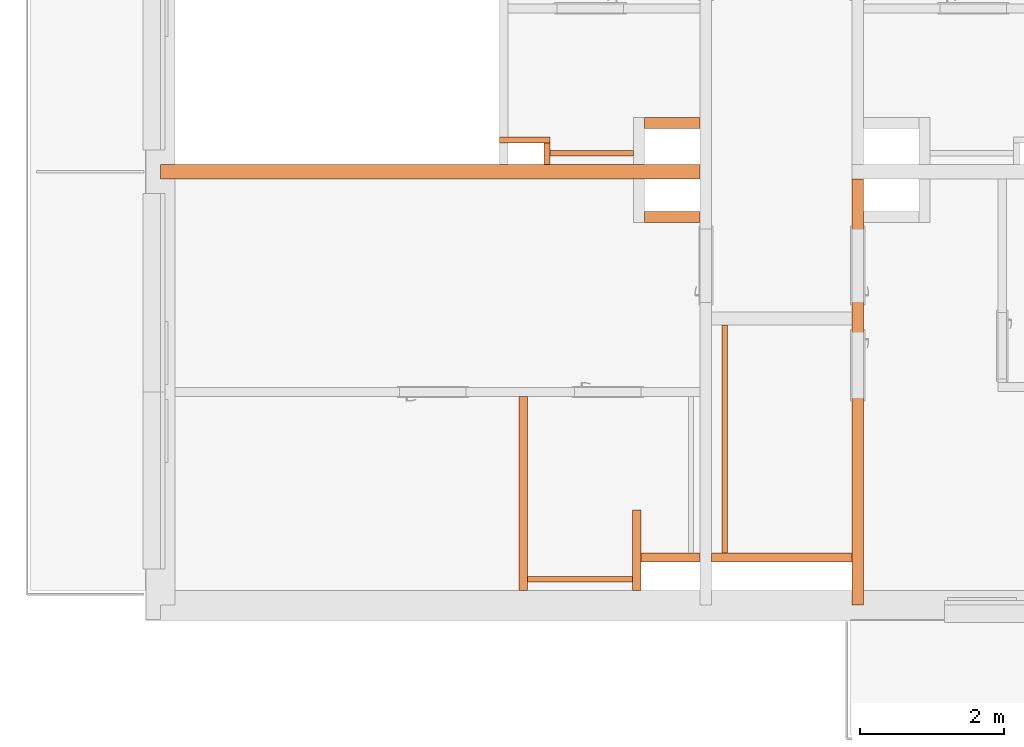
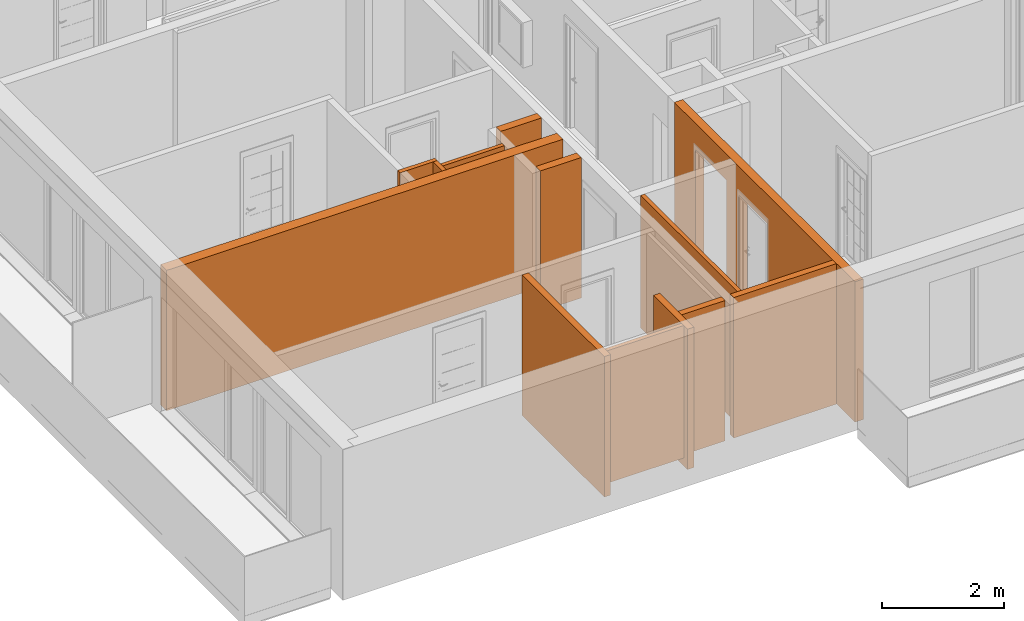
# One storey, part 61 of 64: 13 proxies, 2 openings.
"""IFC2X3 building model written with IfcOpenShell, lengths in millimetres."""

from ifc_helpers import new_model, entity, si_unit, converted_unit, derived_unit, money_unit, direction, frame, origin_with_axes, origin_2d_with_axis, place, context, subcontext, project, spatial, rectangle, extrude, faceted_brep, material, material_list, type_object, element, save


model = new_model("IFC2X3")

# Units and contexts
model_context = context("Model", 3, precision=0.01, world=origin_with_axes(), true_north=direction((0.34421633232, 0.938890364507)))
body_context = subcontext(model_context, "Body", "Model", "MODEL_VIEW")
ifc_project = project(units=[si_unit("LENGTHUNIT", "METRE", prefix="MILLI"), si_unit("AREAUNIT", "SQUARE_METRE"), si_unit("VOLUMEUNIT", "CUBIC_METRE"), converted_unit("PLANEANGLEUNIT", "DEGREE", entity("IfcPlaneAngleMeasure", 0.0174532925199), si_unit("PLANEANGLEUNIT", "RADIAN"), dimensions=[0, 0, 0, 0, 0, 0, 0]), si_unit("SOLIDANGLEUNIT", "STERADIAN"), money_unit("USD"), converted_unit("TIMEUNIT", "Year", entity("IfcTimeMeasure", 31556926.0), si_unit("TIMEUNIT", "SECOND"), dimensions=[0, 0, 1, 0, 0, 0, 0]), si_unit("MASSUNIT", "GRAM", prefix="KILO"), si_unit("THERMODYNAMICTEMPERATUREUNIT", "DEGREE_CELSIUS"), si_unit("LUMINOUSINTENSITYUNIT", "LUMEN"), si_unit("ENERGYUNIT", "JOULE", prefix="MEGA"), derived_unit("THERMALCONDUCTANCEUNIT", [(si_unit("POWERUNIT", "WATT"), 1), (si_unit("LENGTHUNIT", "METRE"), -1), (si_unit("THERMODYNAMICTEMPERATUREUNIT", "KELVIN"), -1)]), derived_unit("SPECIFICHEATCAPACITYUNIT", [(si_unit("ENERGYUNIT", "JOULE"), 1), (si_unit("MASSUNIT", "GRAM", prefix="KILO"), -1), (si_unit("THERMODYNAMICTEMPERATUREUNIT", "KELVIN"), -1)]), derived_unit("MASSDENSITYUNIT", [(si_unit("MASSUNIT", "GRAM", prefix="KILO"), 1), (si_unit("VOLUMEUNIT", "CUBIC_METRE"), -1)])], contexts=[model_context])

# Site, building, storey
site_placement = place(None, origin_with_axes())
site = spatial("IfcSite", under=ifc_project, at=site_placement, Name="USTRONIE MORSKIE", CompositionType="ELEMENT")
building_placement = place(site_placement, origin_with_axes())
building = spatial("IfcBuilding", under=site, at=building_placement, Name="Budynek", CompositionType="ELEMENT")
storey_placement = place(building_placement, frame((0.0, 0.0, 7000.0), z_axis=(0.0, 0.0, 1.0), x_axis=(1.0, 0.0, 0.0)))
storey = spatial("IfcBuildingStorey", under=building, at=storey_placement, Name="PIĘTRO 2", CompositionType="ELEMENT", Elevation=7000.0)

# Proxies
ifc_material_1 = material(Name="Bloczki silikatowe")
building_element_proxy_type_1 = type_object("IfcBuildingElementProxyType", Name="Bloczki silikatowe 120", PredefinedType="NOTDEFINED")
proxy_1_placement = place(storey_placement, frame((415117.920919, 710416.199036, -160.0), z_axis=(0.0, 0.0, 1.0), x_axis=(0.0, -1.0, 0.0)))
element("IfcBuildingElementProxy", 1, at=proxy_1_placement, inside=storey, type_object=building_element_proxy_type_1, material=ifc_material_1, Name="SW-04", context=body_context, shape_type="Brep", body=[
    faceted_brep([(1115.0, -120.0, 2800.0), (1115.0, 0.0, 2800.0), (0.0, 0.0, 2800.0), (0.0, -120.0, 2800.0), (1115.0, -120.0, 0.0), (1115.0, 0.0, 0.0), (0.0, 0.0, 0.0), (0.0, -120.0, 0.0)], [[[0, 1, 2, 3]], [[1, 0, 4, 5]], [[1, 5, 6, 2]], [[7, 3, 2, 6]], [[4, 0, 3, 7]], [[5, 4, 7, 6]]]),
])
proxy_2_placement = place(storey_placement, frame((416017.920919, 709701.199036, -160.0), z_axis=(0.0, 0.0, 1.0), x_axis=(-1.0, 0.0, 0.0)))
element("IfcBuildingElementProxy", 2, at=proxy_2_placement, inside=storey, type_object=building_element_proxy_type_1, material=ifc_material_1, Name="SW-04", context=body_context, shape_type="Brep", body=[
    faceted_brep([(900.0, 0.0, 2800.0), (80.0, 0.0, 2800.0), (80.0, -120.0, 2800.0), (900.0, -120.0, 2800.0), (900.0, 0.0, 0.0), (80.0, 0.0, 0.0), (80.0, -120.0, 0.0), (900.0, -120.0, 0.0)], [[[0, 1, 2, 3]], [[4, 5, 1, 0]], [[5, 6, 2, 1]], [[3, 2, 6, 7]], [[7, 4, 0, 3]], [[7, 6, 5, 4]]]),
])
proxy_3_placement = place(storey_placement, frame((413487.920919, 709201.199036, -160.0), z_axis=(0.0, 0.0, 1.0), x_axis=(0.0, 1.0, 0.0)))
element("IfcBuildingElementProxy", 3, at=proxy_3_placement, inside=storey, type_object=building_element_proxy_type_1, material=ifc_material_1, Name="SW-04", context=body_context, shape_type="Brep", body=[
    faceted_brep([(2790.01936646, 60.0, 0.0), (2790.01936646, -60.0, 0.0), (100.0, -60.0, 0.0), (100.0, 60.0, 0.0), (2790.01936646, 60.0, 2800.0), (2790.01936646, -60.0, 2800.0), (100.0, -60.0, 2800.0), (100.0, 60.0, 2800.0)], [[[0, 1, 2, 3]], [[1, 0, 4, 5]], [[1, 5, 6, 2]], [[7, 3, 2, 6]], [[4, 0, 3, 7]], [[5, 4, 7, 6]]]),
])
proxy_4_placement = place(storey_placement, frame((416017.920919, 709701.199036, -160.0), z_axis=(0.0, 0.0, 1.0), x_axis=(1.0, 0.0, 0.0)))
element("IfcBuildingElementProxy", 4, at=proxy_4_placement, inside=storey, type_object=building_element_proxy_type_1, material=ifc_material_1, Name="SW-04", context=body_context, shape_type="Brep", body=[
    faceted_brep([(2020.0, 120.0, 0.0), (2020.0, -4.54747350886e-10, 0.0), (80.0, -1.13686837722e-10, 0.0), (80.0, 120.0, 0.0), (2020.0, 120.0, 2800.0), (2020.0, -4.54747350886e-10, 2800.0), (80.0, -1.13686837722e-10, 2800.0), (80.0, 120.0, 2800.0)], [[[0, 1, 2, 3]], [[1, 0, 4, 5]], [[1, 5, 6, 2]], [[7, 3, 2, 6]], [[4, 0, 3, 7]], [[5, 4, 7, 6]]]),
])
ifc_material_2 = material(Name="Płyta GK")
ifc_material_3 = material(Name="-Pustka powietrzna")
ifc_material_list_1 = material_list([ifc_material_2, ifc_material_2, ifc_material_3])
building_element_proxy_type_2 = type_object("IfcBuildingElementProxyType", Name="330-SD GK 2-warstwy 75", PredefinedType="NOTDEFINED")
proxy_5_placement = place(storey_placement, frame((413487.920919, 709446.199036, -160.0), z_axis=(0.0, 0.0, 1.0), x_axis=(1.0, 0.0, 0.0)))
element("IfcBuildingElementProxy", 5, at=proxy_5_placement, inside=storey, type_object=building_element_proxy_type_2, material=ifc_material_list_1, Name="Ściana-009", context=body_context, shape_type="Brep", body=[
    faceted_brep([(1510.0, 37.5, 145.0), (1510.0, 50.0, 145.0), (1510.0, 50.0, 2800.0), (1510.0, 37.5, 2800.0), (60.0, 50.0, 145.0), (60.0, 37.5, 145.0), (60.0, 50.0, 2800.0), (60.0, 37.5, 2800.0)], [[[0, 1, 2, 3]], [[4, 1, 0, 5]], [[1, 4, 6, 2]], [[3, 2, 6, 7]], [[5, 0, 3, 7]], [[4, 5, 7, 6]]]),
    faceted_brep([(1510.0, 25.0, 145.0), (1510.0, 37.5, 145.0), (1510.0, 37.5, 2800.0), (1510.0, 25.0, 2800.0), (60.0, 37.5, 145.0), (60.0, 25.0, 145.0), (60.0, 37.5, 2800.0), (60.0, 25.0, 2800.0)], [[[0, 1, 2, 3]], [[4, 1, 0, 5]], [[1, 4, 6, 2]], [[3, 2, 6, 7]], [[5, 0, 3, 7]], [[4, 5, 7, 6]]]),
    faceted_brep([(1510.0, -25.0, 160.0), (1510.0, 25.0, 160.0), (1510.0, 25.0, 2800.0), (1510.0, -25.0, 2800.0), (60.0, 25.0, 160.0), (60.0, -25.0, 160.0), (60.0, 25.0, 2800.0), (60.0, -25.0, 2800.0)], [[[0, 1, 2, 3]], [[4, 1, 0, 5]], [[1, 4, 6, 2]], [[3, 2, 6, 7]], [[5, 0, 3, 7]], [[4, 5, 7, 6]]]),
])
ifc_material_list_2 = material_list([ifc_material_3, ifc_material_2, ifc_material_2])
proxy_6_placement = place(storey_placement, frame((415092.920018, 715371.197725, -180.0), z_axis=(0.0, 0.0, 1.0), x_axis=(-1.0, 0.0, 0.0)))
element("IfcBuildingElementProxy", 6, at=proxy_6_placement, inside=storey, type_object=building_element_proxy_type_2, material=ifc_material_list_2, Name="Ściana-009", context=body_context, shape_type="Brep", body=[
    faceted_brep([(75.0, 50.0, 180.0), (75.0, 0.0, 180.0), (75.0, 0.0, 2820.0), (75.0, 50.0, 2820.0), (1234.99909343, 0.0, 180.0), (1234.99909343, 50.0, 180.0), (1234.99909343, 0.0, 2820.0), (1234.99909343, 50.0, 2820.0)], [[[0, 1, 2, 3]], [[4, 1, 0, 5]], [[1, 4, 6, 2]], [[2, 6, 7, 3]], [[5, 0, 3, 7]], [[4, 5, 7, 6]]]),
    faceted_brep([(75.0, 0.0, 165.0), (75.0, -12.5, 165.0), (75.0, -12.5, 2820.0), (75.0, 0.0, 2820.0), (1234.99909343, -12.5, 165.0), (1234.99909343, 0.0, 165.0), (1234.99909343, -12.5, 2820.0), (1234.99909343, 0.0, 2820.0)], [[[0, 1, 2, 3]], [[4, 1, 0, 5]], [[1, 4, 6, 2]], [[2, 6, 7, 3]], [[5, 0, 3, 7]], [[4, 5, 7, 6]]]),
    faceted_brep([(75.0, -12.5, 165.0), (75.0, -25.0, 165.0), (75.0, -25.0, 2820.0), (75.0, -12.5, 2820.0), (1234.99909343, -25.0, 165.0), (1234.99909343, -12.5, 165.0), (1234.99909343, -25.0, 2820.0), (1234.99909343, -12.5, 2820.0)], [[[0, 1, 2, 3]], [[4, 1, 0, 5]], [[1, 4, 6, 2]], [[2, 6, 7, 3]], [[5, 0, 3, 7]], [[4, 5, 7, 6]]]),
])
proxy_7_placement = place(storey_placement, frame((416262.920919, 713071.199036, -160.0), z_axis=(0.0, 0.0, 1.0), x_axis=(0.0, -1.0, 0.0)))
element("IfcBuildingElementProxy", 7, at=proxy_7_placement, inside=storey, type_object=building_element_proxy_type_2, material=ifc_material_list_1, Name="Ściana-009", context=body_context, shape_type="Brep", body=[
    faceted_brep([(3249.99999956, 50.0, 145.0), (90.0, 50.0, 145.0), (90.0, 50.0, 2800.0), (3249.99999956, 50.0, 2800.0), (90.0, 37.5, 145.0), (3249.99999956, 37.5, 145.0), (90.0, 37.5, 2800.0), (3249.99999956, 37.5, 2800.0)], [[[0, 1, 2, 3]], [[4, 1, 0, 5]], [[1, 4, 6, 2]], [[7, 3, 2, 6]], [[5, 0, 3, 7]], [[4, 5, 7, 6]]]),
    faceted_brep([(3249.99999956, 37.5, 145.0), (90.0, 37.5, 145.0), (90.0, 37.5, 2800.0), (3249.99999956, 37.5, 2800.0), (90.0, 25.0, 145.0), (3249.99999956, 25.0, 145.0), (90.0, 25.0, 2800.0), (3249.99999956, 25.0, 2800.0)], [[[0, 1, 2, 3]], [[4, 1, 0, 5]], [[1, 4, 6, 2]], [[7, 3, 2, 6]], [[5, 0, 3, 7]], [[4, 5, 7, 6]]]),
    faceted_brep([(3249.99999956, 25.0, 160.0), (90.0, 25.0, 160.0), (90.0, 25.0, 2800.0), (3249.99999956, 25.0, 2800.0), (90.0, -25.0, 160.0), (3249.99999956, -25.0, 160.0), (90.0, -25.0, 2800.0), (3249.99999956, -25.0, 2800.0)], [[[0, 1, 2, 3]], [[4, 1, 0, 5]], [[1, 4, 6, 2]], [[7, 3, 2, 6]], [[5, 0, 3, 7]], [[4, 5, 7, 6]]]),
])
building_element_proxy_type_3 = type_object("IfcBuildingElementProxyType", Name="Bloczki silikatowe 80", PredefinedType="NOTDEFINED")
proxy_8_placement = place(storey_placement, frame((413217.920919, 715541.218191, -160.0), z_axis=(0.0, 0.0, 1.0), x_axis=(1.0, 0.0, 0.0)))
element("IfcBuildingElementProxy", 8, at=proxy_8_placement, inside=storey, type_object=building_element_proxy_type_3, material=ifc_material_1, Name="Ściana-009", context=body_context, shape_type="Brep", body=[
    faceted_brep([(640.000005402, 40.0, 0.0), (640.000005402, -40.0, 0.0), (-60.0, -40.0, 0.0), (-60.0, 40.0, 0.0), (640.000005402, 40.0, 2800.0), (640.000005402, -40.0, 2800.0), (-60.0, -40.0, 2800.0), (-60.0, 40.0, 2800.0)], [[[0, 1, 2, 3]], [[1, 0, 4, 5]], [[1, 5, 6, 2]], [[7, 3, 2, 6]], [[4, 0, 3, 7]], [[5, 4, 7, 6]]]),
])
proxy_9_placement = place(storey_placement, frame((413817.920924, 715101.199027, -160.0), z_axis=(0.0, 0.0, 1.0), x_axis=(0.0, 1.0, 0.0)))
element("IfcBuildingElementProxy", 9, at=proxy_9_placement, inside=storey, type_object=building_element_proxy_type_3, material=ifc_material_1, Name="Ściana-010", context=body_context, shape_type="Brep", body=[
    faceted_brep([(400.019164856, 40.0, 0.0), (400.019164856, -40.0, 0.0), (100.000000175, -40.0, 0.0), (99.9999998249, 40.0, 0.0), (400.019164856, 40.0, 2800.0), (400.019164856, -40.0, 2800.0), (100.000000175, -40.0, 2800.0), (99.9999998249, 40.0, 2800.0)], [[[0, 1, 2, 3]], [[1, 0, 4, 5]], [[1, 5, 6, 2]], [[7, 3, 2, 6]], [[4, 0, 3, 7]], [[5, 4, 7, 6]]]),
])
building_element_proxy_type_4 = type_object("IfcBuildingElementProxyType", Name="Bloczki silikatowe 150", PredefinedType="NOTDEFINED")
proxy_10_placement = place(storey_placement, frame((415092.920018, 714476.197053, -160.0), z_axis=(0.0, 0.0, 1.0), x_axis=(1.0, 0.0, 0.0)))
element("IfcBuildingElementProxy", 10, at=proxy_10_placement, inside=storey, type_object=building_element_proxy_type_4, material=ifc_material_1, Name="Ściana-009", context=body_context, shape_type="Brep", body=[
    faceted_brep([(845.00090117, -75.0, 2800.0), (845.00090117, 75.0, 2800.0), (75.0, 75.0, 2800.0), (75.0, -75.0, 2800.0), (845.00090117, -75.0, 0.0), (845.00090117, 75.0, 0.0), (75.0, 75.0, 0.0), (75.0, -75.0, 0.0)], [[[0, 1, 2, 3]], [[1, 0, 4, 5]], [[1, 5, 6, 2]], [[7, 3, 2, 6]], [[4, 0, 3, 7]], [[5, 4, 7, 6]]]),
])
proxy_11_placement = place(storey_placement, frame((415092.920018, 715776.201014, -160.0), z_axis=(0.0, 0.0, 1.0), x_axis=(1.0, 0.0, 0.0)))
element("IfcBuildingElementProxy", 11, at=proxy_11_placement, inside=storey, type_object=building_element_proxy_type_4, material=ifc_material_1, Name="Ściana-009", context=body_context, shape_type="Brep", body=[
    faceted_brep([(845.00090117, 75.0, 0.0), (845.00090117, -75.0, 0.0), (75.0, -75.0, 0.0), (75.0, 75.0, 0.0), (845.00090117, 75.0, 2800.0), (845.00090117, -75.0, 2800.0), (75.0, -75.0, 2800.0), (75.0, 75.0, 2800.0)], [[[0, 1, 2, 3]], [[1, 0, 4, 5]], [[1, 5, 6, 2]], [[7, 3, 2, 6]], [[4, 0, 3, 7]], [[5, 4, 7, 6]]]),
])
ifc_material_4 = material(Name="Beton konstrukcyjny B25")
building_element_proxy_type_5 = type_object("IfcBuildingElementProxyType", Name="Beton konstrukcyjny B25 200", PredefinedType="NOTDEFINED")
proxy_12_placement = place(storey_placement, frame((408567.896728, 715101.199004, -160.0), z_axis=(0.0, 0.0, 1.0), x_axis=(1.0, 4.37552512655e-09, 0.0)))
element("IfcBuildingElementProxy", 12, at=proxy_12_placement, inside=storey, type_object=building_element_proxy_type_5, material=ifc_material_4, Name="SW-01", context=body_context, shape_type="Brep", body=[
    faceted_brep([(-99.9997927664, 100.000000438, 0.0), (7370.02419127, 99.9999677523, 0.0), (7370.0241904, -100.000032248, 0.0), (-100.000207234, -99.9999995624, 0.0), (-99.9997927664, 100.000000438, 2800.0), (7370.02419127, 99.9999677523, 2800.0), (7370.0241904, -100.000032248, 2800.0), (-100.000207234, -99.9999995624, 2800.0)], [[[0, 1, 2, 3]], [[4, 5, 1, 0]], [[6, 2, 1, 5]], [[3, 2, 6, 7]], [[7, 4, 0, 3]], [[7, 6, 5, 4]]]),
])

# Proxy, openings
building_element_proxy_type_6 = type_object("IfcBuildingElementProxyType", Name="Beton konstrukcyjny B25 160", PredefinedType="NOTDEFINED")
proxy_13_placement = place(storey_placement, frame((418117.920919, 715101.199036, -160.0), z_axis=(0.0, 0.0, 1.0), x_axis=(0.0, -1.0, 0.0)))
proxy_13 = element("IfcBuildingElementProxy", 13, at=proxy_13_placement, inside=storey, type_object=building_element_proxy_type_6, material=ifc_material_4, Name="SW-01", context=body_context, shape_type="Brep", body=[
    faceted_brep([(6000.0, 80.0, 0.0), (100.0, 80.0, 0.0), (100.0, 80.0, 2800.0), (6000.0, 80.0, 2800.0), (6000.0, -80.0, 0.0), (100.0, -80.0, 0.0), (100.0, -80.0, 2800.0), (6000.0, -80.0, 2800.0)], [[[0, 1, 2, 3]], [[4, 5, 1, 0]], [[5, 6, 2, 1]], [[3, 2, 6, 7]], [[3, 7, 4, 0]], [[7, 6, 5, 4]]]),
])
opening_1_placement = place(proxy_13_placement, frame((1300.00000044, 0.0, 160.0), z_axis=(0.0, 0.0, 1.0), x_axis=(1.0, 0.0, 0.0)))
element("IfcOpeningElement", 14, at=opening_1_placement, cuts=proxy_13, Name="Dw.1", context=body_context, shape_type="SweptSolid", body=[
    extrude(rectangle(XDim=1020.0, YDim=2120.0, at=origin_2d_with_axis()), frame((0.0, -160.0, 1060.0), z_axis=(0.0, -1.0, 0.0), x_axis=(-1.0, 0.0, 0.0)), (0.0, 0.0, -1.0), 480.0),
    extrude(rectangle(XDim=1094.0, YDim=2227.0, at=origin_2d_with_axis()), frame((0.0, -80.0, 1113.5), z_axis=(0.0, -1.0, 0.0), x_axis=(-1.0, 0.0, 0.0)), (0.0, 0.0, 1.0), 160.0),
    extrude(rectangle(XDim=1094.0, YDim=2227.0, at=origin_2d_with_axis()), frame((0.0, 80.0, 1113.5), z_axis=(0.0, 1.0, 0.0), x_axis=(-1.0, 0.0, 0.0)), (0.0, 0.0, 1.0), 160.0),
])
opening_2_placement = place(proxy_13_placement, frame((2680.00000044, 0.0, 160.0), z_axis=(0.0, 0.0, 1.0), x_axis=(1.0, 0.0, 0.0)))
element("IfcOpeningElement", 15, at=opening_2_placement, cuts=proxy_13, Name="Dw.4", context=body_context, shape_type="SweptSolid", body=[
    extrude(rectangle(XDim=920.0, YDim=2070.0, at=origin_2d_with_axis()), frame((0.0, -160.0, 1035.0), z_axis=(0.0, 1.0, 0.0), x_axis=(1.0, 0.0, 0.0)), (0.0, 0.0, 1.0), 480.0),
    extrude(rectangle(XDim=994.0, YDim=2177.0, at=origin_2d_with_axis()), frame((0.0, -80.0, 1088.5), z_axis=(0.0, 1.0, 0.0), x_axis=(1.0, 0.0, 0.0)), (0.0, 0.0, -1.0), 160.0),
    extrude(rectangle(XDim=994.0, YDim=2177.0, at=origin_2d_with_axis()), frame((0.0, 80.0, 1088.5), z_axis=(0.0, -1.0, 0.0), x_axis=(1.0, 0.0, 0.0)), (0.0, 0.0, -1.0), 160.0),
])

save(model, "model.ifc")
